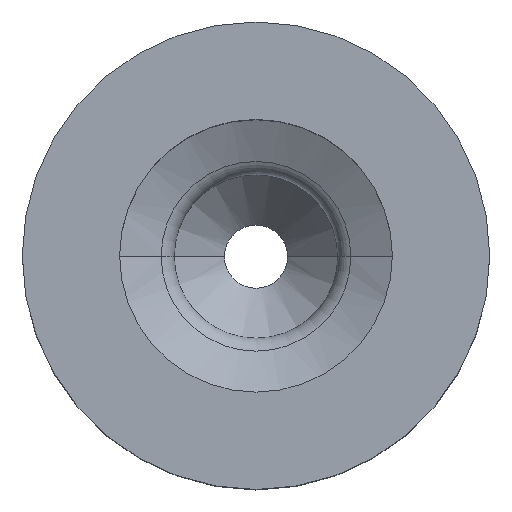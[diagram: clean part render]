
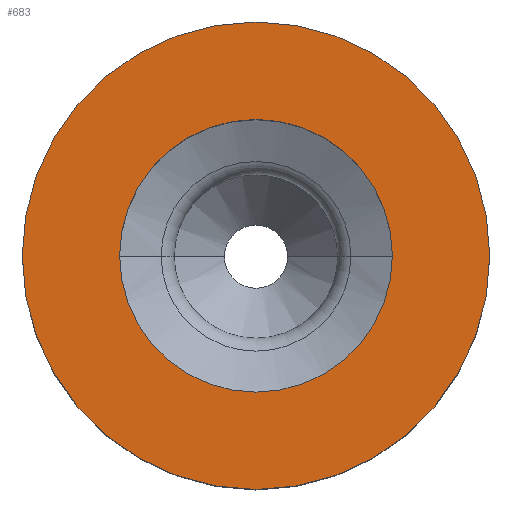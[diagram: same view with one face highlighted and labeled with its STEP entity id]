
A CAD part, top view. The second image highlights one B-rep face of the part: STEP entity #683.
In plain terms, the highlighted planar face has unit normal (0, 0, 1).
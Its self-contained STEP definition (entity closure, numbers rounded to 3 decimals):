
#7 = VERTEX_POINT ( 'NONE', #28 ) ;
#16 = CARTESIAN_POINT ( 'NONE',  ( 0., 0., 0. ) ) ;
#28 = CARTESIAN_POINT ( 'NONE',  ( 3.5, 0., 0. ) ) ;
#36 = ORIENTED_EDGE ( 'NONE', *, *, #775, .T. ) ;
#49 = AXIS2_PLACEMENT_3D ( 'NONE', #304, #566, #876 ) ;
#55 = ORIENTED_EDGE ( 'NONE', *, *, #580, .F. ) ;
#80 = AXIS2_PLACEMENT_3D ( 'NONE', #16, #920, #606 ) ;
#107 = CARTESIAN_POINT ( 'NONE',  ( -6., 0., 0. ) ) ;
#134 = DIRECTION ( 'NONE',  ( 0., 0., 1. ) ) ;
#148 = CARTESIAN_POINT ( 'NONE',  ( 0., 0., 0. ) ) ;
#165 = EDGE_CURVE ( 'NONE', #807, #7, #407, .T. ) ;
#221 = CARTESIAN_POINT ( 'NONE',  ( 0., 0., 0. ) ) ;
#251 = FACE_BOUND ( 'NONE', #702, .T. ) ;
#265 = EDGE_CURVE ( 'NONE', #832, #921, #509, .T. ) ;
#304 = CARTESIAN_POINT ( 'NONE',  ( 0., 0., 0. ) ) ;
#316 = CIRCLE ( 'NONE', #49, 6. ) ;
#320 = AXIS2_PLACEMENT_3D ( 'NONE', #871, #916, #421 ) ;
#407 = CIRCLE ( 'NONE', #320, 3.5 ) ;
#421 = DIRECTION ( 'NONE',  ( 1., 0., 0. ) ) ;
#456 = DIRECTION ( 'NONE',  ( -1., 0., 0. ) ) ;
#509 = CIRCLE ( 'NONE', #80, 6. ) ;
#521 = CIRCLE ( 'NONE', #589, 3.5 ) ;
#526 = DIRECTION ( 'NONE',  ( 0., 0., -1. ) ) ;
#528 = ORIENTED_EDGE ( 'NONE', *, *, #265, .T. ) ;
#531 = PLANE ( 'NONE',  #900 ) ;
#566 = DIRECTION ( 'NONE',  ( 0., 0., 1. ) ) ;
#580 = EDGE_CURVE ( 'NONE', #7, #807, #521, .T. ) ;
#589 = AXIS2_PLACEMENT_3D ( 'NONE', #148, #134, #722 ) ;
#606 = DIRECTION ( 'NONE',  ( 1., 0., 0. ) ) ;
#683 = ADVANCED_FACE ( 'NONE', ( #927, #251 ), #531, .F. ) ;
#702 = EDGE_LOOP ( 'NONE', ( #55, #906 ) ) ;
#722 = DIRECTION ( 'NONE',  ( 1., 0., 0. ) ) ;
#775 = EDGE_CURVE ( 'NONE', #921, #832, #316, .T. ) ;
#807 = VERTEX_POINT ( 'NONE', #859 ) ;
#832 = VERTEX_POINT ( 'NONE', #107 ) ;
#855 = CARTESIAN_POINT ( 'NONE',  ( 6., 0., 0. ) ) ;
#859 = CARTESIAN_POINT ( 'NONE',  ( -3.5, 0., 0. ) ) ;
#871 = CARTESIAN_POINT ( 'NONE',  ( 0., 0., 0. ) ) ;
#876 = DIRECTION ( 'NONE',  ( 1., 0., 0. ) ) ;
#895 = EDGE_LOOP ( 'NONE', ( #36, #528 ) ) ;
#900 = AXIS2_PLACEMENT_3D ( 'NONE', #221, #526, #456 ) ;
#906 = ORIENTED_EDGE ( 'NONE', *, *, #165, .F. ) ;
#916 = DIRECTION ( 'NONE',  ( 0., 0., 1. ) ) ;
#920 = DIRECTION ( 'NONE',  ( 0., 0., 1. ) ) ;
#921 = VERTEX_POINT ( 'NONE', #855 ) ;
#927 = FACE_OUTER_BOUND ( 'NONE', #895, .T. ) ;
